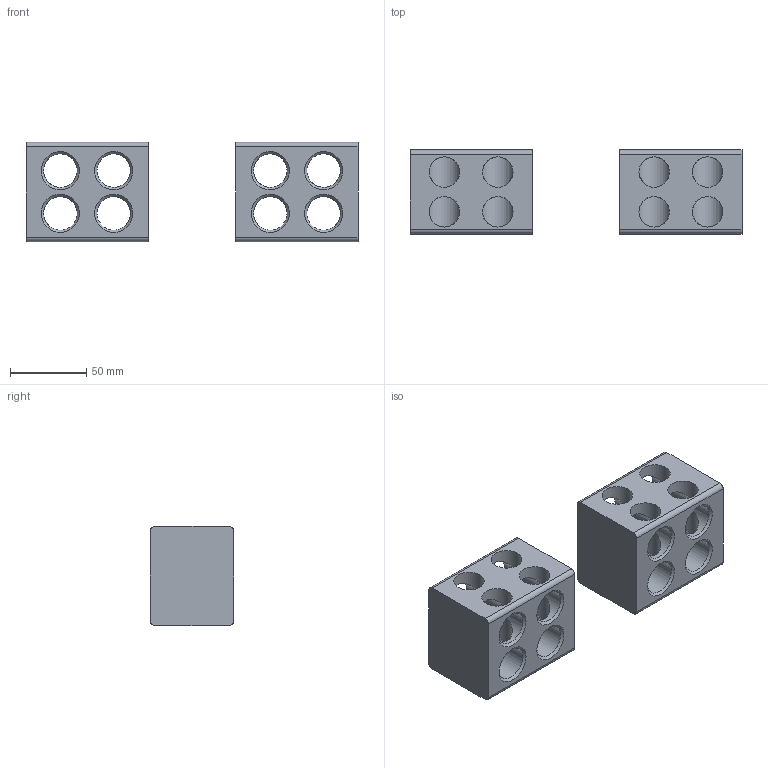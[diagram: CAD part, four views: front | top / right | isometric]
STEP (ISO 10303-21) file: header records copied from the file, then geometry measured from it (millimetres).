
FILE_DESCRIPTION (( 'STEP AP214' ), '1' );
FILE_NAME ('Êîìïëåêò çàæèìîâ ÷åòûðåõãíåçäíûõ 185 êâ ìì ÂÀ50-43-2 íèæíèå.STEP', '2023-01-31T12:08:18', ( '' ), ( '' ), 'SwSTEP 2.0', 'SolidWorks 2018', '' );
FILE_SCHEMA (( 'AUTOMOTIVE_DESIGN' ));
Length unit declared in the file: millimetre
Products named in the file (1): Êîìïëåêò çàæèìîâ ÷åòûðåõãíåçäíûõ 185 êâ ìì ÂÀ50-43-2 íèæíèå
Bounding box: 217.5 x 55 x 65 mm (x, y, z)
Volume: 353623.5 mm3; surface area: 76556 mm2
Topology: 2 solids, 2 shells, 68 faces, 212 edges, 144 vertices
Faces by surface type: cylinder 36, cone 20, plane 12
Full cylindrical faces by diameter (mm): 10 x4, 20 x16, 22 x8
Entity records: 5263 total; most frequent: CARTESIAN_POINT 2909, DIRECTION 298, ORIENTED_EDGE 256, EDGE_LOOP 168, AXIS2_PLACEMENT_3D 133, EDGE_CURVE 128, VERTEX_POINT 108, FACE_OUTER_BOUND 96
